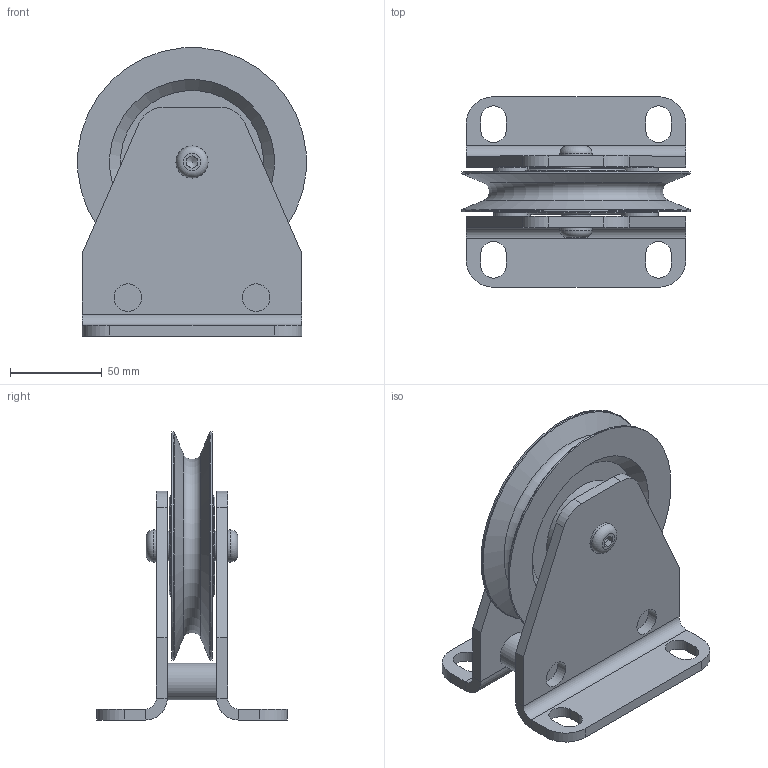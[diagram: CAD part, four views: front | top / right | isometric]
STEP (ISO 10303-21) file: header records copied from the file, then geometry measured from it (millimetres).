
FILE_DESCRIPTION(/* description */ ('Seilrollenbock ø125 Stahl Gleitlager komplett'),/* implementation_level */ '2;1');
FILE_NAME(/* name */ 'Z:\Workspace\03 Seilrollen\1.405 Seilrollenbock Stahl Gleitlager\1.405.04 Seilrollenbock ø125 Stahl Gleitlager\1.405.04 Seilrollenbock ø125 Stahl Gleitlager komplett.stp',/* time_stamp */ '2021-10-05T14:34:20+02:00',/* author */ ('cad-user'),/* organization */ (''),/* preprocessor_version */ 'ST-DEVELOPER v18',/* originating_system */ 'Autodesk Inventor 2020',/* authorisation */ '');
FILE_SCHEMA (('AUTOMOTIVE_DESIGN { 1 0 10303 214 3 1 1 }'));
Length unit declared in the file: millimetre
Products named in the file (8): 1.405.04 Seilrollenbock ø125 Stahl Gleitlager kompl
ett; 1.405.04.01 Seilrollenbock Schweißteil; 1.405.04.01 Blech; 1.405.04.01 Distanzachse; 1.405.03.02 Achse; ISO 7380 - M10 x 16; 1.401.04 Seilrolle ø125 Buchse; Lagerbuchse 1625-DU
Assembly tree (10 placements, depth 3):
  1.405.04 Seilrollenbock ø125 Stahl Gleitlager kompl
ett
    1.405.04.01 Seilrollenbock Schweißteil
      1.405.04.01 Blech  x2
      1.405.04.01 Distanzachse  x2
    1.405.03.02 Achse
    ISO 7380 - M10 x 16  x2
    1.401.04 Seilrolle ø125 Buchse
    Lagerbuchse 1625-DU
Bounding box: 124.54 x 104 x 157.27 mm (x, y, z)
Volume: 365239.2 mm3; surface area: 122054 mm2
Topology: 9 solids, 9 shells, 131 faces, 330 edges, 221 vertices
Faces by surface type: plane 68, cylinder 42, cone 14, torus 7
Full cylindrical faces by diameter (mm): 8.376 x1, 10 x2, 10.4 x2, 15 x4, 16 x1, 17.5 x2, 18 x1, 20 x2, 55 x2, 125 x2
Entity records: 2865 total; most frequent: DIRECTION 500, CARTESIAN_POINT 468, ORIENTED_EDGE 412, EDGE_CURVE 206, AXIS2_PLACEMENT_3D 205, VERTEX_POINT 140, CIRCLE 105, EDGE_LOOP 102
